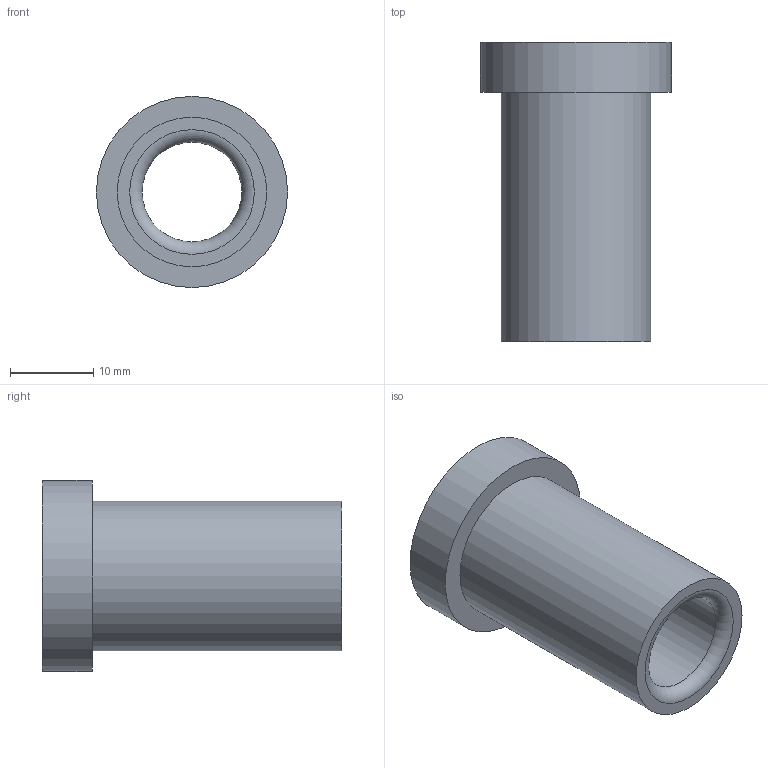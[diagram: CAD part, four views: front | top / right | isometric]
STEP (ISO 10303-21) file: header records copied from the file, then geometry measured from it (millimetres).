
FILE_DESCRIPTION(/* description */ ('STEP AP214'),/* implementation_level */ '2;1');
FILE_NAME(/* name */ '03_12_17840',/* time_stamp */ '2023-06-15T11:35:23+02:00',/* author */ ('License CC BY-ND 4.0'),/* organization */ ('CADENAS'),/* preprocessor_version */ 'ST-DEVELOPER v19.3',/* originating_system */ 'PARTsolutions',/* authorisation */ ' ');
FILE_SCHEMA (('AUTOMOTIVE_DESIGN {1 0 10303 214 3 1 1}'));
Length unit declared in the file: millimetre
Products named in the file (1): VA_Bushing_17840
Bounding box: 23 x 36 x 23 mm (x, y, z)
Volume: 5932.6 mm3; surface area: 4057.7 mm2
Topology: 1 solids, 1 shells, 10 faces, 16 edges, 10 vertices
Faces by surface type: cylinder 4, plane 4, torus 2
Full cylindrical faces by diameter (mm): 12 x1, 12.6 x1, 18 x1, 23 x1
Entity records: 302 total; most frequent: DIRECTION 42, CARTESIAN_POINT 31, AXIS2_PLACEMENT_3D 21, ORIENTED_EDGE 20, EDGE_LOOP 20, FACE_BOUND 20, EDGE_CURVE 10, VERTEX_POINT 10
